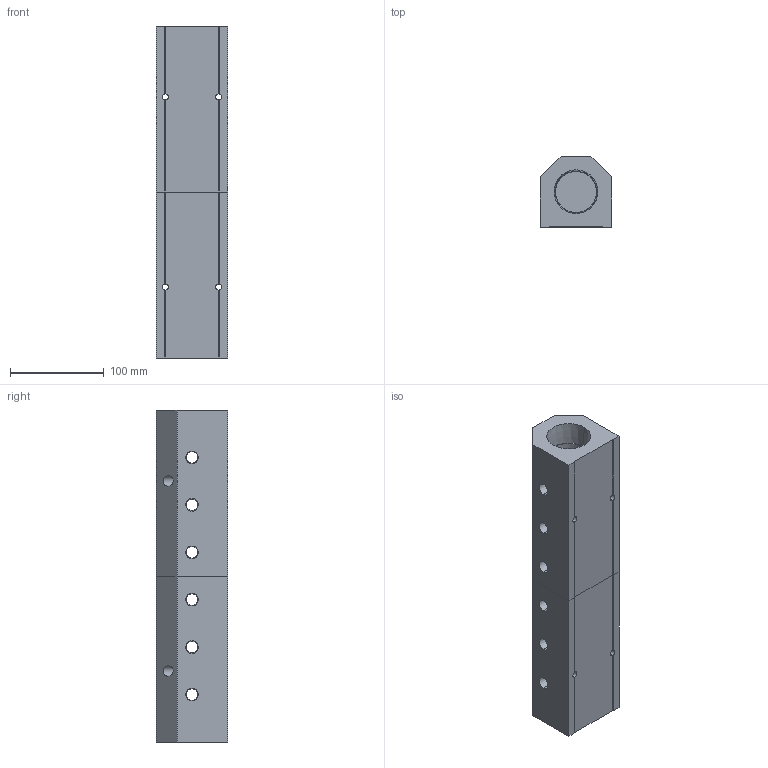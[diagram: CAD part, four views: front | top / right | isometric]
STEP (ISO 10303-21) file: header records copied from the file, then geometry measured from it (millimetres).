
FILE_DESCRIPTION (( 'STEP AP214' ), '1' );
FILE_NAME ('ALM6ACE-N4N24-355RB.step', '2022-02-07T07:52:11', ( '' ), ( '' ), 'SwSTEP 2.0', 'SolidWorks 2020', '' );
FILE_SCHEMA (( 'AUTOMOTIVE_DESIGN' ));
Length unit declared in the file: millimetre
Products named in the file (1): ALM6ACE-N4N24-355RB
Bounding box: 76.2 x 76.2 x 355 mm (x, y, z)
Volume: 1284594.6 mm3; surface area: 181872.7 mm2
Topology: 2 solids, 2 shells, 384 faces, 1033 edges, 678 vertices
Faces by surface type: plane 253, bspline 71, cone 40, cylinder 20
Entity records: 21540 total; most frequent: CARTESIAN_POINT 8695, ORIENTED_EDGE 2066, DIRECTION 1543, EDGE_CURVE 1033, VECTOR 763, LINE 763, VERTEX_POINT 678, EDGE_LOOP 453
